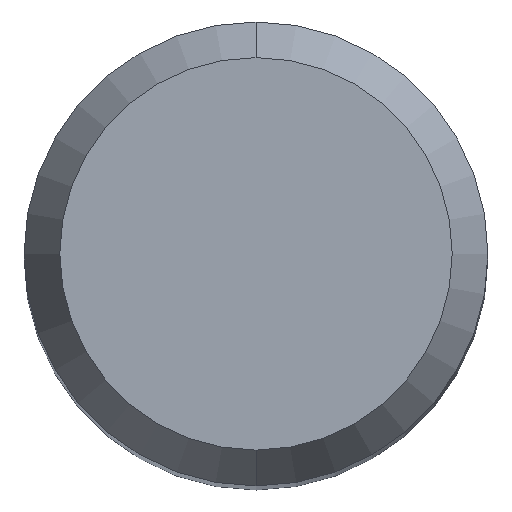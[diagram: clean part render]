
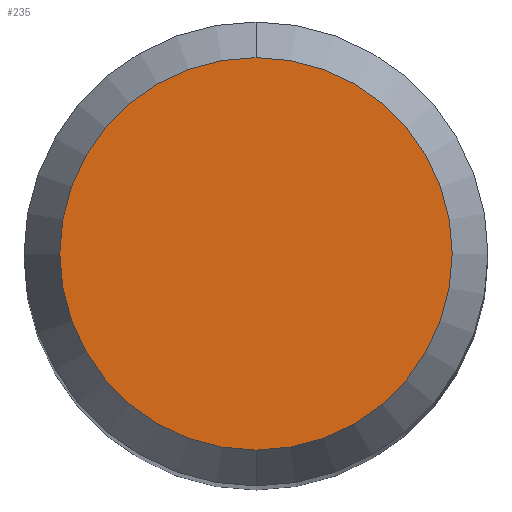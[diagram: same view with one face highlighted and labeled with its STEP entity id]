
A CAD part, top view. The second image highlights one B-rep face of the part: STEP entity #235.
In plain terms, the highlighted planar face has unit normal (0, 0, 1).
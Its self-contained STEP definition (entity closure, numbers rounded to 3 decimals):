
#179=EDGE_CURVE('',#331,#303,#436,.T.);
#235=ADVANCED_FACE('',(#497),#498,.T.);
#303=VERTEX_POINT('',#571);
#331=VERTEX_POINT('',#602);
#361=EDGE_CURVE('',#303,#331,#635,.T.);
#436=CIRCLE('',#711,2.538);
#497=FACE_OUTER_BOUND('',#916,.T.);
#498=PLANE('',#917);
#571=CARTESIAN_POINT('',(0.0,2.538,0.0));
#602=CARTESIAN_POINT('',(0.,-2.538,0.0));
#635=CIRCLE('',#1185,2.538);
#711=AXIS2_PLACEMENT_3D('',#1286,#1287,#1288);
#916=EDGE_LOOP('',(#1347,#1348));
#917=AXIS2_PLACEMENT_3D('',#1349,#1350,#1351);
#1185=AXIS2_PLACEMENT_3D('',#1484,#1485,#1486);
#1286=CARTESIAN_POINT('',(0.0,0.0,0.0));
#1287=DIRECTION('',(0.0,0.0,-1.0));
#1288=DIRECTION('',(0.0,1.0,0.0));
#1347=ORIENTED_EDGE('',*,*,#361,.F.);
#1348=ORIENTED_EDGE('',*,*,#179,.F.);
#1349=CARTESIAN_POINT('',(0.0,1.269,0.0));
#1350=DIRECTION('',(-0.0,0.0,1.0));
#1351=DIRECTION('',(0.0,-1.0,0.0));
#1484=CARTESIAN_POINT('',(0.0,0.0,0.0));
#1485=DIRECTION('',(0.0,0.0,-1.0));
#1486=DIRECTION('',(0.0,1.0,0.0));
